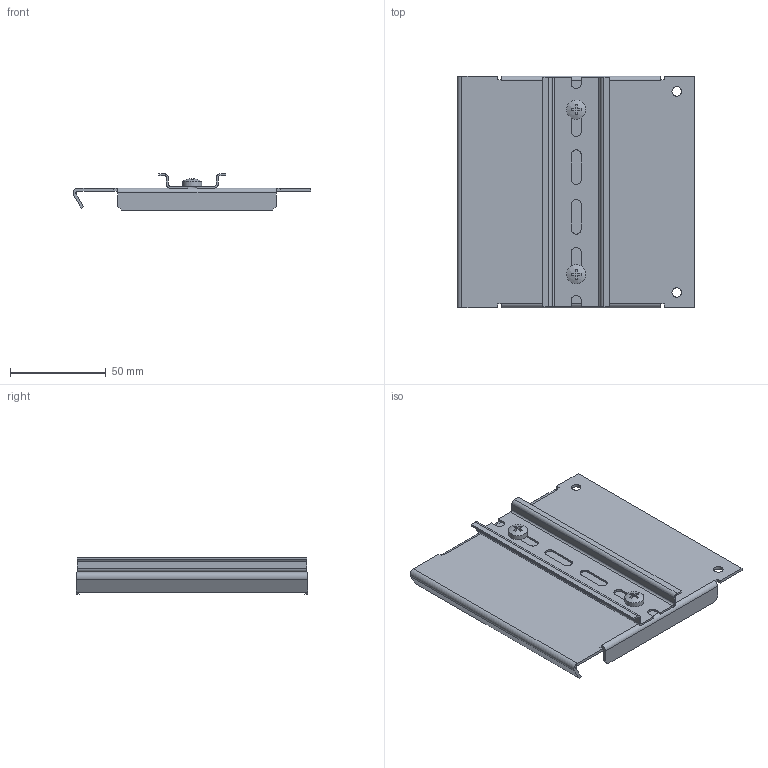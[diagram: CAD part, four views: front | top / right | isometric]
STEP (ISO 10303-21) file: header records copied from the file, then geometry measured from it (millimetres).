
FILE_DESCRIPTION((''),'2;1');
FILE_NAME('C:\Users\rahns\Desktop\Sylvia Info´s\Dateien für Vertrieb\SLZ14\md3_slz14.stp','2012-06-11T07:36:49',('rahns'),(''),'Autodesk Inventor 2009','Autodesk Inventor 2009','');
FILE_SCHEMA(('AUTOMOTIVE_DESIGN { 1 0 10303 214 1 1 1 1 }'));
Length unit declared in the file: millimetre
Products named in the file (4): 290.00 Accessories; EW-290.930; EW-290.931; SCREW M5x8
Assembly tree (4 placements, depth 2):
  290.00 Accessories
    EW-290.930
    EW-290.931
    SCREW M5x8  x2
Bounding box: 124.22 x 121 x 19 mm (x, y, z)
Volume: 32181.1 mm3; surface area: 47596.4 mm2
Topology: 4 solids, 4 shells, 144 faces, 384 edges, 254 vertices
Faces by surface type: plane 100, cylinder 32, bspline 6, cone 4, sphere 2
Full cylindrical faces by diameter (mm): 4 x2, 5 x2, 6 x2, 10 x2
Entity records: 4095 total; most frequent: CARTESIAN_POINT 829, DIRECTION 652, ORIENTED_EDGE 642, EDGE_CURVE 321, VECTOR 240, LINE 240, VERTEX_POINT 221, AXIS2_PLACEMENT_3D 206
